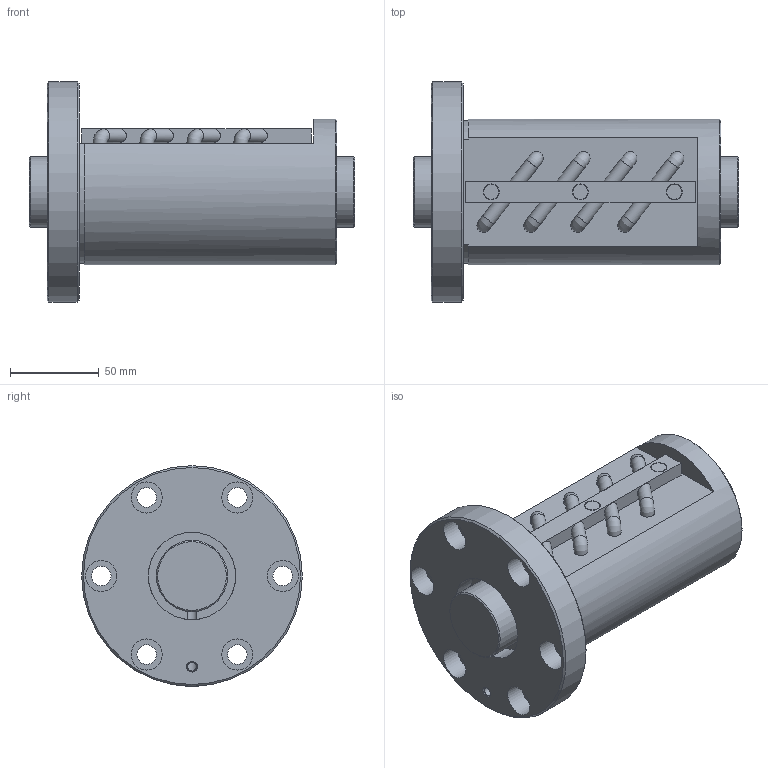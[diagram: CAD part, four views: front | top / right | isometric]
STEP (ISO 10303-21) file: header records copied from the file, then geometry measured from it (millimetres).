
FILE_DESCRIPTION(/* description */ ('STEP AP203'),/* implementation_level */ '2;1');
FILE_NAME(/* name */ 'BIF4010V-10RRG0+183LC0_000',/* time_stamp */ '2024-07-15T08:24:11+02:00',/* author */ ('License CC BY-ND 4.0'),/* organization */ ('CADENAS'),/* preprocessor_version */ 'ST-DEVELOPER v19.3',/* originating_system */ 'PARTsolutions',/* authorisation */ ' ');
FILE_SCHEMA (('CONFIG_CONTROL_DESIGN'));
Length unit declared in the file: millimetre
Products named in the file (3): BIF4010V-10RRG0+183LC0_000; BIF4010V-10RR000 Shaft; BIF4010V-10RR Nut
Assembly tree (2 placements, depth 2):
  BIF4010V-10RRG0+183LC0_000
    BIF4010V-10RR000 Shaft
    BIF4010V-10RR Nut
Bounding box: 183 x 124 x 124 mm (x, y, z)
Volume: 914669.2 mm3; surface area: 122993.2 mm2
Topology: 2 solids, 2 shells, 111 faces, 257 edges, 164 vertices
Faces by surface type: plane 53, cylinder 44, torus 8, cone 6
Full cylindrical faces by diameter (mm): 4.917 x1, 6.199 x2, 7.8 x8, 8.5 x3, 9 x3, 11 x6, 17.5 x6, 40 x2, 49.2 x2, 82 x1, 124 x1
Entity records: 3075 total; most frequent: CARTESIAN_POINT 584, DIRECTION 554, ORIENTED_EDGE 396, AXIS2_PLACEMENT_3D 254, EDGE_LOOP 200, FACE_BOUND 200, EDGE_CURVE 198, VERTEX_POINT 148
